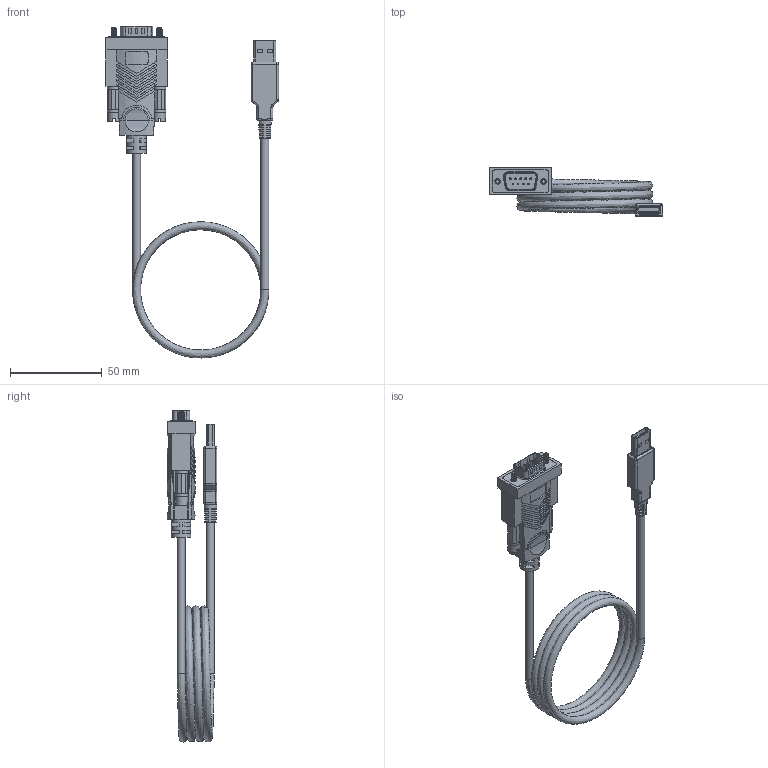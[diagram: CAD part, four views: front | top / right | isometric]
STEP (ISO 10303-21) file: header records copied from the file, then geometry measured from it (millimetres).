
FILE_DESCRIPTION(/* description */ (''),/* implementation_level */ '2;1');
FILE_NAME(/* name */ '/Users/leo/Desktop/Coolgear May/USBG-1S1PQ/USBG-1S1PQ.step',/* time_stamp */ '2021-08-16T16:49:24-04:00',/* author */ (''),/* organization */ (''),/* preprocessor_version */ 'ST-DEVELOPER v18.1',/* originating_system */ 'Autodesk Translation Framework v10.9.0.1377',/* authorisation */ '');
FILE_SCHEMA (('AUTOMOTIVE_DESIGN { 1 0 10303 214 3 1 1 }'));
Length unit declared in the file: millimetre
Products named in the file (1): FusionComponent
Bounding box: 94.49 x 27.18 x 181.21 mm (x, y, z)
Volume: 37173.3 mm3; surface area: 25420 mm2
Topology: 15 solids, 15 shells, 1015 faces, 2539 edges, 1557 vertices
Faces by surface type: plane 515, cylinder 297, bspline 123, torus 36, sphere 33, cone 11
Full cylindrical faces by diameter (mm): 1 x18, 2.02 x12, 2.845 x14, 3 x2, 4.3 x2, 4.4 x2, 6.8 x2, 10.7 x1
Entity records: 40323 total; most frequent: CARTESIAN_POINT 17104, ORIENTED_EDGE 4940, DIRECTION 4596, EDGE_CURVE 2470, AXIS2_PLACEMENT_3D 1658, VERTEX_POINT 1557, LINE 1280, VECTOR 1280
